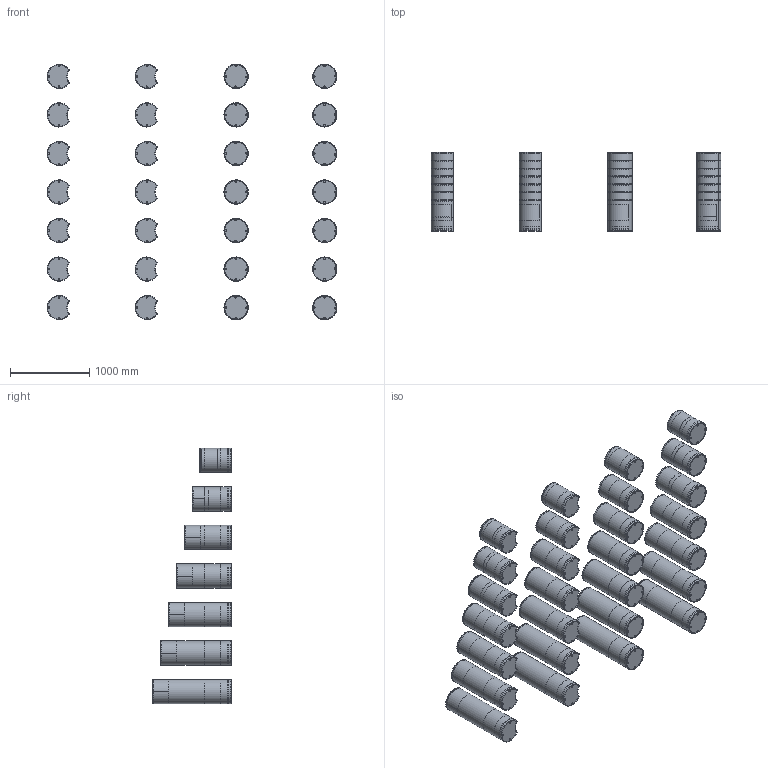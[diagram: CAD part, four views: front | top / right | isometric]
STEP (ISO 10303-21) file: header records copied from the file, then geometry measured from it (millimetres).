
FILE_DESCRIPTION(/* description */ (''),/* implementation_level */ '2;1');
FILE_NAME(/* name */ 'OAAS_Collection_STEP(3D).step',/* time_stamp */ '2025-04-03T13:14:46+03:00',/* author */ (''),/* organization */ (''),/* preprocessor_version */ 'ST-DEVELOPER v20.1',/* originating_system */ 'Autodesk Translation Framework v14.4.0.0',/* authorisation */ '');
FILE_SCHEMA (('AUTOMOTIVE_DESIGN { 1 0 10303 214 3 1 1 }'));
Length unit declared in the file: millimetre
Products named in the file (29): OAAS_Collection_STEP(3D); S131-JPH40; S131-JPH50; S131-JPH60; S131-JPH70; S131-JPH80; S131-JPH90; S131-JPH100; S131-JSH40 ; S131-JSH50 ; S131-JSH60 ; S131-JSH70 ; S131-JSH80 ; S131-JSH90 ; S131-JSH100 ; S131-OSH40; S131-OSH50; S131-OSH60; S131-OSH70; S131-OSH80; S131-OSH90; S131-OSH100; S131-OPH40; S131-OPH50; S131-OPH60; S131-OPH70; S131-OPH80; S131-OPH90; S131-OPH100
Assembly tree (28 placements, depth 2):
  OAAS_Collection_STEP(3D)
    S131-JPH40
    S131-JPH50
    S131-JPH60
    S131-JPH70
    S131-JPH80
    S131-JPH90
    S131-JPH100
    S131-JSH40 
    S131-JSH50 
    S131-JSH60 
    S131-JSH70 
    S131-JSH80 
    S131-JSH90 
    S131-JSH100 
    S131-OSH40
    S131-OSH50
    S131-OSH60
    S131-OSH70
    S131-OSH80
    S131-OSH90
    S131-OSH100
    S131-OPH40
    S131-OPH50
    S131-OPH60
    S131-OPH70
    S131-OPH80
    S131-OPH90
    S131-OPH100
Bounding box: 3659.64 x 1000 x 3225.5 mm (x, y, z)
Volume: 152490133.5 mm3; surface area: 67031953 mm2
Topology: 28 solids, 28 shells, 2316 faces, 5857 edges, 3732 vertices
Faces by surface type: cylinder 873, plane 537, torus 537, bspline 271, cone 98
Full cylindrical faces by diameter (mm): 244 x7, 284 x7, 288 x12, 306 x14
Entity records: 82200 total; most frequent: CARTESIAN_POINT 25264, DIRECTION 12236, ORIENTED_EDGE 11706, EDGE_CURVE 5853, AXIS2_PLACEMENT_3D 5475, VERTEX_POINT 3730, CIRCLE 3360, EDGE_LOOP 2553
